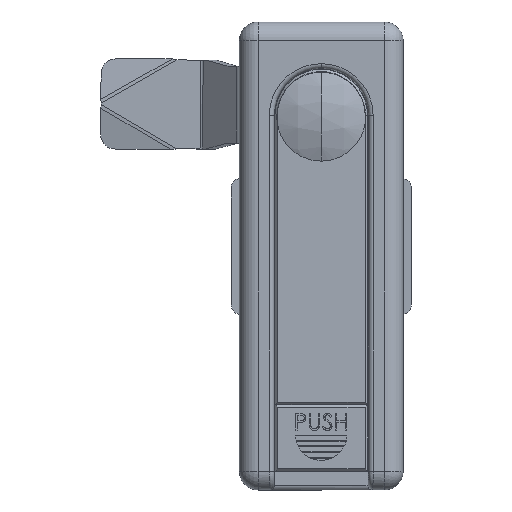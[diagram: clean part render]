
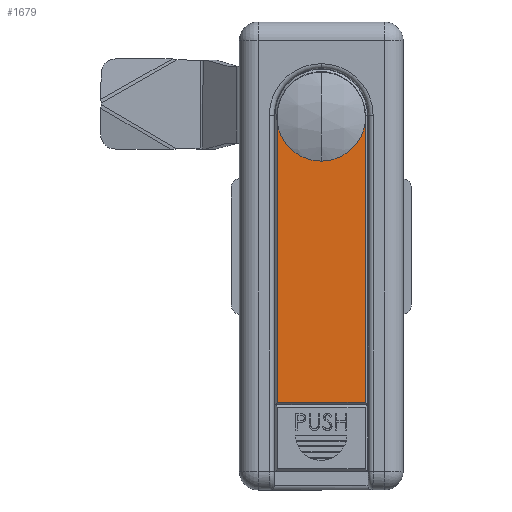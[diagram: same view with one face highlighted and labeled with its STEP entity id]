
A CAD part, top view. The second image highlights one B-rep face of the part: STEP entity #1679.
In plain terms, the highlighted planar face has unit normal (0, 0, 1) as drawn and (0, 0, -1) by its records, which use the part's own axes.
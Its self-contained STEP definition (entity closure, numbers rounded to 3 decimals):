
#967 = EDGE_CURVE ( 'NONE', #972, #1012, #5108, .T. ) ;
#972 = VERTEX_POINT ( 'NONE', #5051 ) ;
#1012 = VERTEX_POINT ( 'NONE', #5137 ) ;
#1635 = VERTEX_POINT ( 'NONE', #10590 ) ;
#1636 = ORIENTED_EDGE ( 'NONE', *, *, #1680, .T. ) ;
#1637 = EDGE_CURVE ( 'NONE', #1681, #1635, #10584, .T. ) ;
#1639 = ORIENTED_EDGE ( 'NONE', *, *, #1640, .T. ) ;
#1640 = EDGE_CURVE ( 'NONE', #1635, #1669, #10585, .T. ) ;
#1641 = EDGE_CURVE ( 'NONE', #972, #1669, #10693, .T. ) ;
#1643 = ORIENTED_EDGE ( 'NONE', *, *, #1641, .F. ) ;
#1650 = ORIENTED_EDGE ( 'NONE', *, *, #967, .T. ) ;
#1669 = VERTEX_POINT ( 'NONE', #6562 ) ;
#1676 = EDGE_LOOP ( 'NONE', ( #1650, #1636, #1678, #1639, #1643 ) ) ;
#1678 = ORIENTED_EDGE ( 'NONE', *, *, #1637, .T. ) ;
#1679 = ADVANCED_FACE ( 'NONE', ( #6445 ), #6446, .T. ) ;
#1680 = EDGE_CURVE ( 'NONE', #1012, #1681, #6574, .T. ) ;
#1681 = VERTEX_POINT ( 'NONE', #6596 ) ;
#5051 = CARTESIAN_POINT ( 'NONE',  ( 21.609, 8.1, 0. ) ) ;
#5098 = AXIS2_PLACEMENT_3D ( 'NONE', #5112, #5194, #5193 ) ;
#5108 = CIRCLE ( 'NONE', #5098, 9.5 ) ;
#5112 = CARTESIAN_POINT ( 'NONE',  ( 20.234, 17.5, 0. ) ) ;
#5137 = CARTESIAN_POINT ( 'NONE',  ( 29.734, 17.5, 0. ) ) ;
#5193 = DIRECTION ( 'NONE',  ( 1., 0., 0. ) ) ;
#5194 = DIRECTION ( 'NONE',  ( 0., 0., 1. ) ) ;
#6445 = FACE_OUTER_BOUND ( 'NONE', #1676, .T. ) ;
#6446 = PLANE ( 'NONE',  #6597 ) ;
#6447 = CARTESIAN_POINT ( 'NONE',  ( 0., 35., 0. ) ) ;
#6460 = DIRECTION ( 'NONE',  ( 0., 0., -1. ) ) ;
#6514 = DIRECTION ( 'NONE',  ( 0., 0., 1. ) ) ;
#6515 = CARTESIAN_POINT ( 'NONE',  ( 20.234, 17.5, 0. ) ) ;
#6562 = CARTESIAN_POINT ( 'NONE',  ( 81.3, 8.1, 0. ) ) ;
#6569 = DIRECTION ( 'NONE',  ( 1., 0., 0. ) ) ;
#6572 = DIRECTION ( 'NONE',  ( -1., 0., 0. ) ) ;
#6573 = AXIS2_PLACEMENT_3D ( 'NONE', #6515, #6514, #6569 ) ;
#6574 = CIRCLE ( 'NONE', #6573, 9.5 ) ;
#6596 = CARTESIAN_POINT ( 'NONE',  ( 21.609, 26.9, 0. ) ) ;
#6597 = AXIS2_PLACEMENT_3D ( 'NONE', #6447, #6460, #6572 ) ;
#10582 = VECTOR ( 'NONE', #10669, 1000. ) ;
#10583 = CARTESIAN_POINT ( 'NONE',  ( 20., 26.9, 0. ) ) ;
#10584 = LINE ( 'NONE', #10583, #10582 ) ;
#10585 = LINE ( 'NONE', #10668, #10667 ) ;
#10590 = CARTESIAN_POINT ( 'NONE',  ( 81.3, 26.9, 0. ) ) ;
#10662 = DIRECTION ( 'NONE',  ( 1., 0., 0. ) ) ;
#10663 = VECTOR ( 'NONE', #10662, 1000. ) ;
#10664 = CARTESIAN_POINT ( 'NONE',  ( 20., 8.1, 0. ) ) ;
#10666 = DIRECTION ( 'NONE',  ( 0., -1., 0. ) ) ;
#10667 = VECTOR ( 'NONE', #10666, 1000. ) ;
#10668 = CARTESIAN_POINT ( 'NONE',  ( 81.3, 28.1, 0. ) ) ;
#10669 = DIRECTION ( 'NONE',  ( 1., 0., 0. ) ) ;
#10693 = LINE ( 'NONE', #10664, #10663 ) ;
